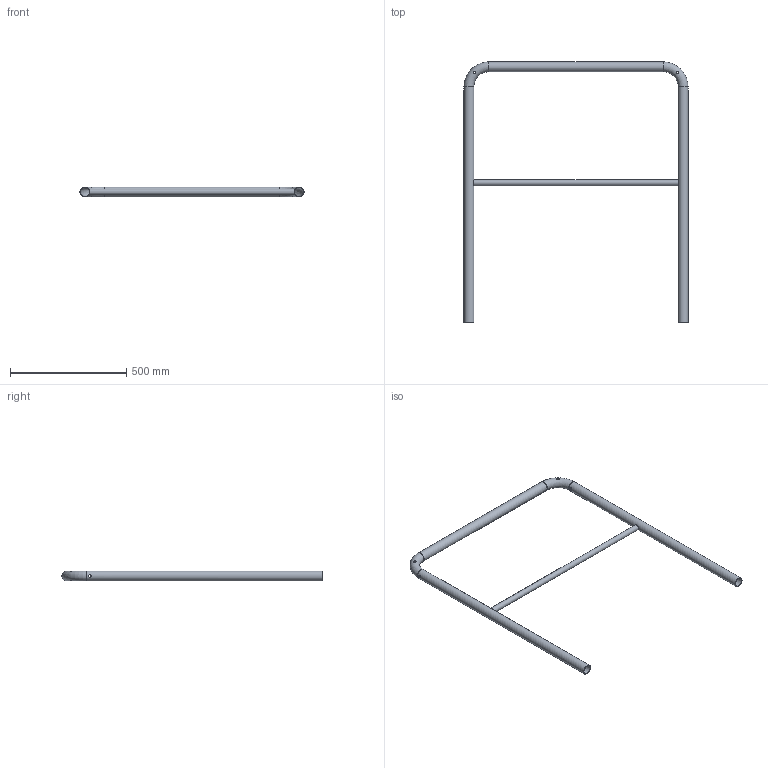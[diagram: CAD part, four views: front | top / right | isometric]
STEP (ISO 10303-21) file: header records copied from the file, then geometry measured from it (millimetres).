
FILE_DESCRIPTION((''),'2;1');
FILE_NAME('S:\Användarkataloger\AndreasA\Mina Inventor filer\Räcken\STEP\modul_ind_1000-1100.stp','2010-09-07T13:12:18',('AndreasA'),(''),'Autodesk Inventor 2011','Autodesk Inventor 2011','');
FILE_SCHEMA(('AUTOMOTIVE_DESIGN { 1 0 10303 214 1 1 1 1 }'));
Length unit declared in the file: millimetre
Products named in the file (3): modul_ind_1000-1100; handledare_modul_1000-1100; mellanliggare_modul_1000
Assembly tree (2 placements, depth 2):
  modul_ind_1000-1100
    handledare_modul_1000-1100
    mellanliggare_modul_1000
Bounding box: 965.4 x 1121.2 x 42.4 mm (x, y, z)
Volume: 899754 mm3; surface area: 901087.7 mm2
Topology: 2 solids, 2 shells, 24 faces, 64 edges, 40 vertices
Faces by surface type: cylinder 16, torus 4, plane 4
Full cylindrical faces by diameter (mm): 10 x4, 11 x4, 21 x1, 25 x1, 38.4 x3, 42.4 x3
Entity records: 1354 total; most frequent: CARTESIAN_POINT 809, DIRECTION 90, ORIENTED_EDGE 64, EDGE_LOOP 64, AXIS2_PLACEMENT_3D 45, FACE_BOUND 40, VERTEX_POINT 32, EDGE_CURVE 32
